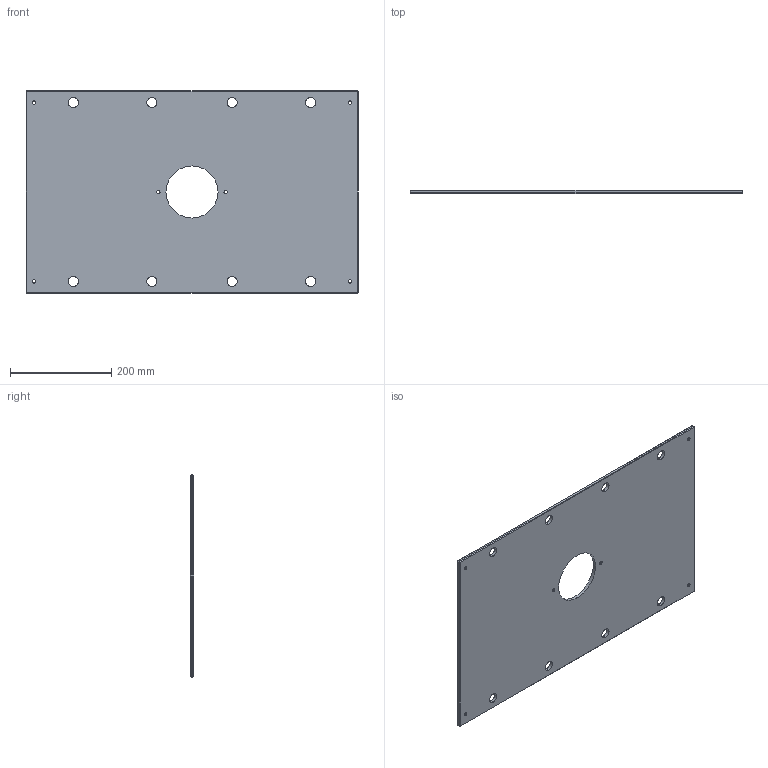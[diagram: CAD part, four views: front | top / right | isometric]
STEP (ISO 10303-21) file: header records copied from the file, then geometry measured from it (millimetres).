
FILE_DESCRIPTION (( 'STEP AP214' ), '1' );
FILE_NAME ('ME-0619-CH-1626.STEP', '2020-02-11T17:07:05', ( '' ), ( '' ), 'SwSTEP 2.0', 'SolidWorks 2018', '' );
FILE_SCHEMA (( 'AUTOMOTIVE_DESIGN' ));
Length unit declared in the file: inch
Products named in the file (1): ME-0619-CH-1626
Bounding box: 657.23 x 6.35 x 400.05 mm (x, y, z)
Volume: 1594606.5 mm3; surface area: 519892.6 mm2
Topology: 1 solids, 1 shells, 68 faces, 162 edges, 96 vertices
Faces by surface type: cylinder 30, plane 26, cone 12
Entity records: 2050 total; most frequent: DIRECTION 372, CARTESIAN_POINT 327, ORIENTED_EDGE 324, EDGE_CURVE 162, AXIS2_PLACEMENT_3D 141, EDGE_LOOP 98, VERTEX_POINT 96, LINE 90
